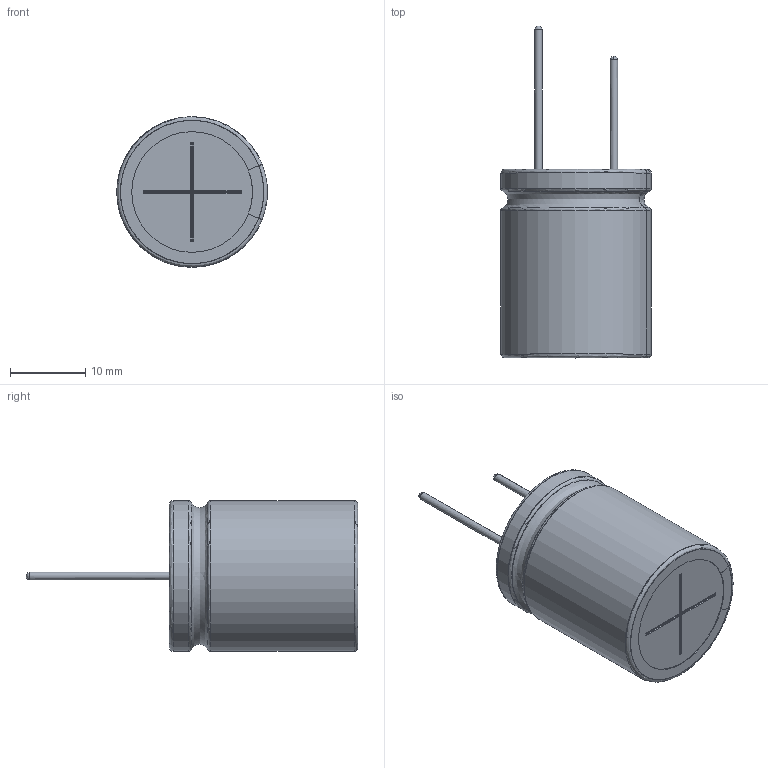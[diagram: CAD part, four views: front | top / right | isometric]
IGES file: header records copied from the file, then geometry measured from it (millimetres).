
Start section: JAMA-IS VERSION  1.0
Bounding box: 19.97 x 44 x 20 mm (x, y, z)
Surface area: 5896.2 mm2 (no closed solid volume)
Topology: 0 solids, 0 shells, 100 faces, 1336 edges, 1316 vertices
Faces by surface type: bspline 100
